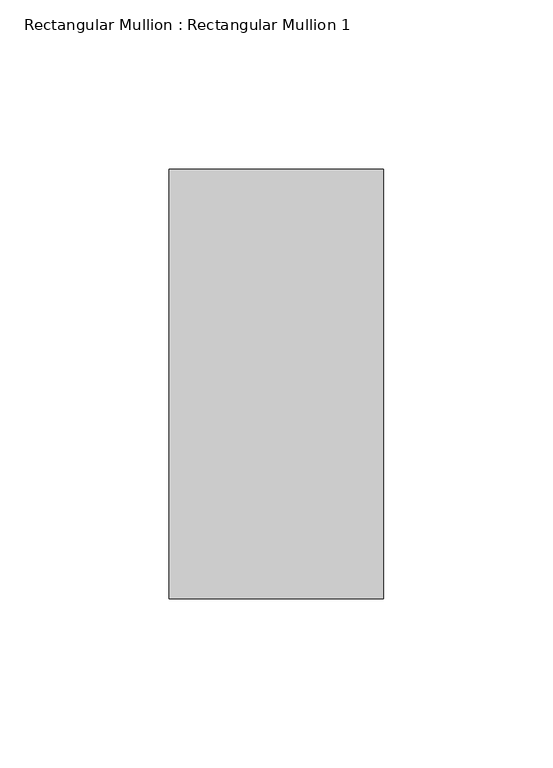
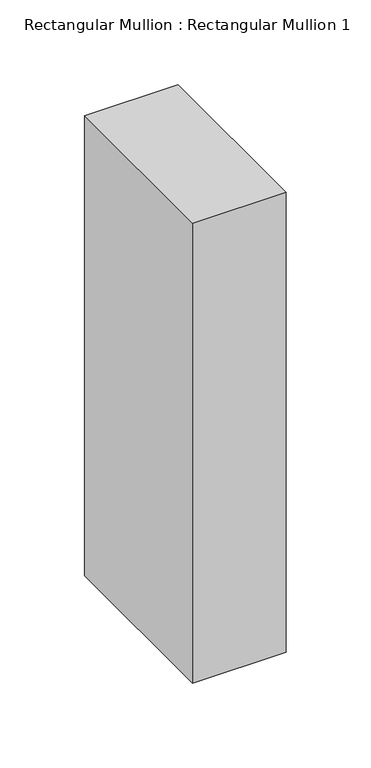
"""IFC4 building model written with IfcOpenShell, lengths in millimetres: member geometry, Rectangular Mullion : Rectangular Mullion 1."""

from ifc_helpers import new_model, si_unit, frame, origin, place, context, project, spatial, polyline, outline, extrude, source, transform, mapped, element, save


def rectangular_mullion_rectangular_mullion_1_b6c962ab(model_context):
    return source(origin(), model_context, "Body", "SweptSolid", [
        extrude(outline(polyline([(31.75, 63.5), (31.75, -63.5), (-31.75, -63.5), (-31.75, 63.5), (31.75, 63.5)])), frame((0.0, 0.0, -330.1999997), z_axis=(0.0, 0.0, 1.0), x_axis=(1.0, 0.0, 0.0)), (0.0, 0.0, 1.0), 330.1999997),
    ])


if __name__ == "__main__":
    model = new_model("IFC4")
    model_context = context("Model", 3, world=origin())
    ifc_project = project(units=[si_unit("LENGTHUNIT", "METRE", prefix="MILLI")], contexts=[model_context])
    site = spatial("IfcSite", under=ifc_project)
    building = spatial("IfcBuilding", under=site)
    placement = place(None, origin())
    rectangular_mullion_rectangular_mullion_1_shape = rectangular_mullion_rectangular_mullion_1_b6c962ab(model_context)
    element("IfcMember", 1, ObjectType="Rectangular Mullion : Rectangular Mullion 1", at=placement, inside=building, context=model_context, shape_type="MappedRepresentation", body=[
        mapped(rectangular_mullion_rectangular_mullion_1_shape, transform((0.0, 0.0, 0.0), x_axis=(1.0, 0.0, 0.0), y_axis=(0.0, 1.0, 0.0), z_axis=(0.0, 0.0, 1.0))),
    ])
    save(model, "model.ifc")
